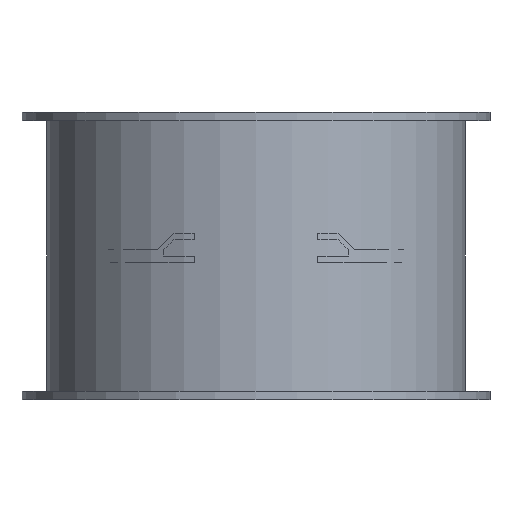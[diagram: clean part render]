
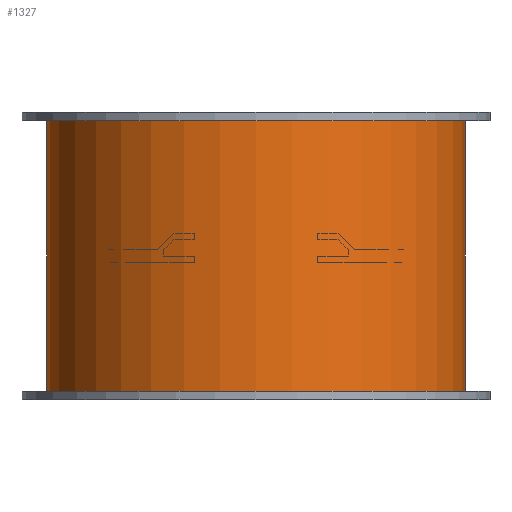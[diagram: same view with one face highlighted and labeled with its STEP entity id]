
A CAD part, left-side view. The second image highlights one B-rep face of the part: STEP entity #1327.
In plain terms, the highlighted cylindrical face has radius 51 mm (diameter 102 mm), a full revolution.
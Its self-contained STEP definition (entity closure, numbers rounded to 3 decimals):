
#872=CARTESIAN_POINT('',(-51.,0.,-33.0));
#873=VERTEX_POINT('',#872);
#874=CARTESIAN_POINT('',(0.0,0.0,-33.0));
#875=DIRECTION('',(0.0,0.0,1.0));
#876=DIRECTION('',(-1.0,0.0,0.0));
#877=AXIS2_PLACEMENT_3D('',#874,#875,#876);
#878=CIRCLE('',#877,51.);
#879=EDGE_CURVE('',#873,#873,#878,.T.);
#920=CARTESIAN_POINT('',(51.,0.,33.0));
#921=VERTEX_POINT('',#920);
#922=CARTESIAN_POINT('',(0.0,0.0,33.0));
#923=DIRECTION('',(0.0,0.0,-1.0));
#924=DIRECTION('',(-1.0,0.0,0.0));
#925=AXIS2_PLACEMENT_3D('',#922,#923,#924);
#926=CIRCLE('',#925,51.);
#927=EDGE_CURVE('',#921,#921,#926,.T.);
#978=CARTESIAN_POINT('',(46.915,-20.,8.));
#979=VERTEX_POINT('',#978);
#980=CARTESIAN_POINT('',(46.915,20.,8.));
#981=VERTEX_POINT('',#980);
#982=CARTESIAN_POINT('',(0.0,0.0,8.));
#983=DIRECTION('',(0.0,0.0,1.0));
#984=DIRECTION('',(-1.0,0.0,0.0));
#985=AXIS2_PLACEMENT_3D('',#982,#983,#984);
#986=CIRCLE('',#985,51.);
#987=EDGE_CURVE('',#979,#981,#986,.T.);
#1022=CARTESIAN_POINT('',(44.452,-25.,3.));
#1023=VERTEX_POINT('',#1022);
#1024=CARTESIAN_POINT('',(0.0,0.0,28.));
#1025=DIRECTION('',(0.0,-0.707,0.707));
#1026=DIRECTION('',(0.0,-0.707,-0.707));
#1027=AXIS2_PLACEMENT_3D('',#1024,#1025,#1026);
#1028=ELLIPSE('',#1027,72.125,51.);
#1029=EDGE_CURVE('',#1023,#979,#1028,.T.);
#1054=CARTESIAN_POINT('',(44.452,25.,3.));
#1055=VERTEX_POINT('',#1054);
#1056=CARTESIAN_POINT('',(0.0,0.0,28.));
#1057=DIRECTION('',(0.0,0.707,0.707));
#1058=DIRECTION('',(0.0,-0.707,0.707));
#1059=AXIS2_PLACEMENT_3D('',#1056,#1057,#1058);
#1060=ELLIPSE('',#1059,72.125,51.0);
#1061=EDGE_CURVE('',#981,#1055,#1060,.T.);
#1086=CARTESIAN_POINT('',(0.0,-51.,3.));
#1087=VERTEX_POINT('',#1086);
#1088=CARTESIAN_POINT('',(0.0,0.0,3.));
#1089=DIRECTION('',(0.0,0.0,1.0));
#1090=DIRECTION('',(-1.0,0.0,0.0));
#1091=AXIS2_PLACEMENT_3D('',#1088,#1089,#1090);
#1092=CIRCLE('',#1091,51.);
#1093=EDGE_CURVE('',#1087,#1023,#1092,.T.);
#1118=CARTESIAN_POINT('',(0.0,51.,3.));
#1119=VERTEX_POINT('',#1118);
#1120=CARTESIAN_POINT('',(0.0,0.0,3.));
#1121=DIRECTION('',(0.0,0.0,1.0));
#1122=DIRECTION('',(-1.0,0.0,0.0));
#1123=AXIS2_PLACEMENT_3D('',#1120,#1121,#1122);
#1124=CIRCLE('',#1123,51.);
#1125=EDGE_CURVE('',#1055,#1119,#1124,.T.);
#1150=CARTESIAN_POINT('',(0.0,51.,-3.));
#1151=VERTEX_POINT('',#1150);
#1152=CARTESIAN_POINT('',(0.0,-51.,-3.));
#1153=VERTEX_POINT('',#1152);
#1154=CARTESIAN_POINT('',(0.0,0.0,-3.));
#1155=DIRECTION('',(0.0,0.0,-1.0));
#1156=DIRECTION('',(-1.0,0.0,0.0));
#1157=AXIS2_PLACEMENT_3D('',#1154,#1155,#1156);
#1158=CIRCLE('',#1157,51.);
#1159=EDGE_CURVE('',#1151,#1153,#1158,.T.);
#1191=CARTESIAN_POINT('',(0.0,51.,-3.));
#1192=DIRECTION('',(0.0,0.0,1.0));
#1193=VECTOR('',#1192,6.);
#1194=LINE('',#1191,#1193);
#1195=EDGE_CURVE('',#1151,#1119,#1194,.T.);
#1213=CARTESIAN_POINT('',(0.0,-51.,-3.));
#1214=DIRECTION('',(0.0,0.0,1.0));
#1215=VECTOR('',#1214,6.);
#1216=LINE('',#1213,#1215);
#1217=EDGE_CURVE('',#1153,#1087,#1216,.T.);
#1306=CARTESIAN_POINT('',(0.0,0.0,0.0));
#1307=DIRECTION('',(0.0,0.0,1.0));
#1308=DIRECTION('',(-1.0,0.0,0.0));
#1309=AXIS2_PLACEMENT_3D('',#1306,#1307,#1308);
#1310=CYLINDRICAL_SURFACE('',#1309,51.);
#1311=ORIENTED_EDGE('',*,*,#879,.T.);
#1312=EDGE_LOOP('',(#1311));
#1313=FACE_OUTER_BOUND('',#1312,.T.);
#1314=ORIENTED_EDGE('',*,*,#927,.T.);
#1315=EDGE_LOOP('',(#1314));
#1316=FACE_BOUND('',#1315,.T.);
#1317=ORIENTED_EDGE('',*,*,#1159,.T.);
#1318=ORIENTED_EDGE('',*,*,#1217,.T.);
#1319=ORIENTED_EDGE('',*,*,#1093,.T.);
#1320=ORIENTED_EDGE('',*,*,#1029,.T.);
#1321=ORIENTED_EDGE('',*,*,#987,.T.);
#1322=ORIENTED_EDGE('',*,*,#1061,.T.);
#1323=ORIENTED_EDGE('',*,*,#1125,.T.);
#1324=ORIENTED_EDGE('',*,*,#1195,.F.);
#1325=EDGE_LOOP('',(#1317,#1318,#1319,#1320,#1321,#1322,#1323,#1324));
#1326=FACE_BOUND('',#1325,.T.);
#1327=ADVANCED_FACE('',(#1313,#1316,#1326),#1310,.T.);
